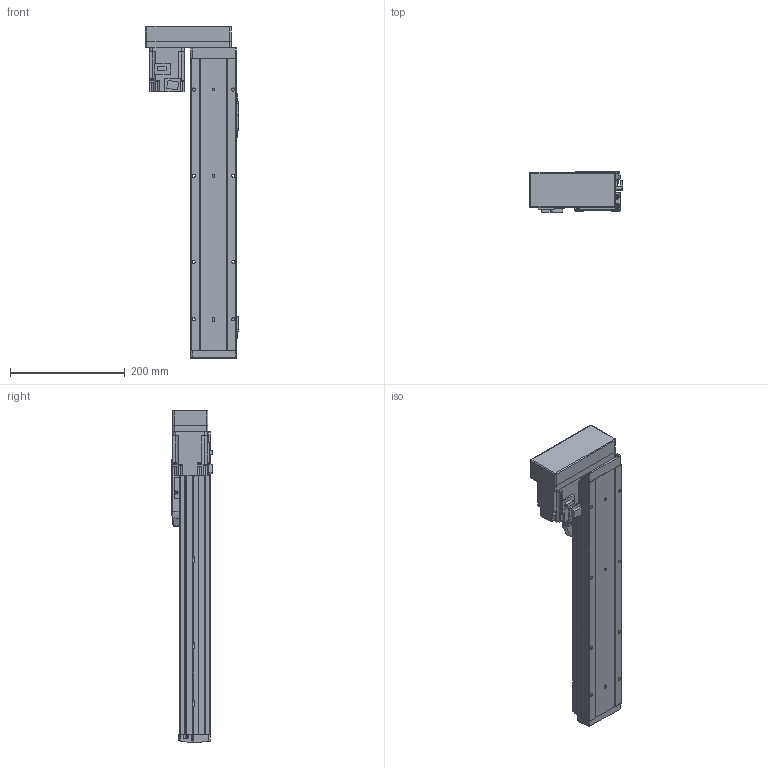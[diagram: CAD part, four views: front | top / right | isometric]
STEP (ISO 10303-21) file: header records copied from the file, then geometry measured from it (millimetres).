
FILE_DESCRIPTION (( 'STEP AP214' ), '1' );
FILE_NAME ('GSH8-350-BR-M20-1.step', '2025-01-07T06:10:12', ( '' ), ( '' ), 'SwSTEP 2.0', 'SolidWorks 2012', '' );
FILE_SCHEMA (( 'AUTOMOTIVE_DESIGN' ));
Length unit declared in the file: millimetre
Products named in the file (5): GSH8-350-BR-M20-1; GSH8-BL-008; HG-KR23_200W_Motor; GSH8-GY-004; GSH8-BL-011-350-M20
Assembly tree (4 placements, depth 2):
  GSH8-350-BR-M20-1
    GSH8-BL-011-350-M20
    GSH8-GY-004
    GSH8-BL-008
    HG-KR23_200W_Motor
Bounding box: 163 x 71.3 x 578.2 mm (x, y, z)
Volume: 1712217.6 mm3; surface area: 392847.4 mm2
Topology: 4 solids, 8 shells, 1097 faces, 2867 edges, 1843 vertices
Faces by surface type: plane 624, cylinder 377, torus 42, cone 26, bspline 24, sphere 4
Entity records: 43023 total; most frequent: CARTESIAN_POINT 9756, DIRECTION 5819, ORIENTED_EDGE 5718, EDGE_CURVE 2859, AXIS2_PLACEMENT_3D 1958, LINE 1903, VECTOR 1903, VERTEX_POINT 1839
